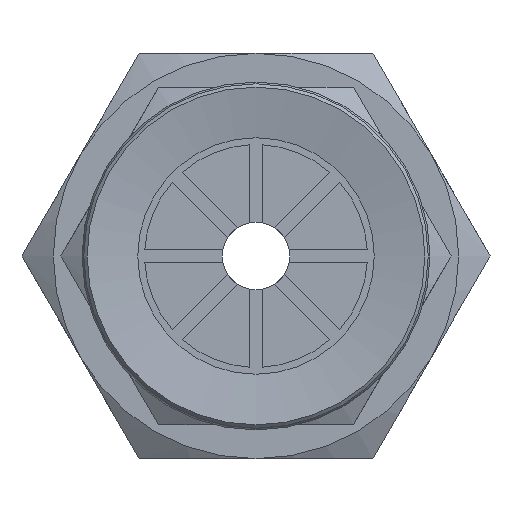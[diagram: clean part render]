
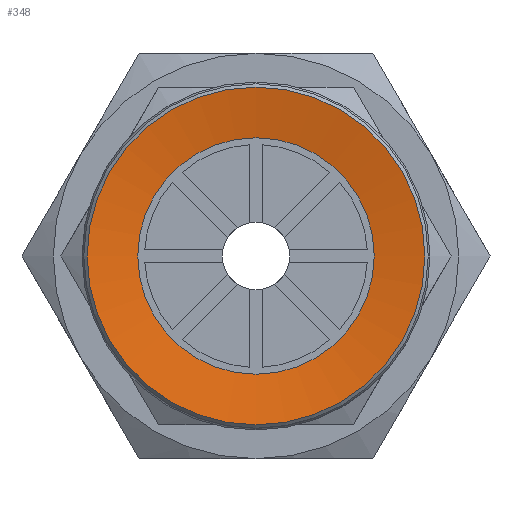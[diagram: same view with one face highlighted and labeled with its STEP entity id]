
A CAD part, front view. The second image highlights one B-rep face of the part: STEP entity #348.
In plain terms, the highlighted conical face has half-angle 80 degrees and reference radius 5 mm.
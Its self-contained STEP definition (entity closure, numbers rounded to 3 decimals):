
#348=ADVANCED_FACE('',(#568,#569),#570,.F.);
#568=FACE_BOUND('',#861,.T.);
#569=FACE_OUTER_BOUND('',#862,.T.);
#570=CONICAL_SURFACE('',#863,5.0,1.396);
#861=EDGE_LOOP('',(#1425));
#862=EDGE_LOOP('',(#1426));
#863=AXIS2_PLACEMENT_3D('',#1427,#1428,#1429);
#1425=ORIENTED_EDGE('',*,*,#1934,.T.);
#1426=ORIENTED_EDGE('',*,*,#1935,.F.);
#1427=CARTESIAN_POINT('',(0.0,0.,0.));
#1428=DIRECTION('',(0.0,0.,-1.0));
#1429=DIRECTION('',(0.0,1.0,0.));
#1934=EDGE_CURVE('',#2250,#2250,#2251,.T.);
#1935=EDGE_CURVE('',#2252,#2252,#2253,.T.);
#2250=VERTEX_POINT('',#3088);
#2251=CIRCLE('',#3089,3.5);
#2252=VERTEX_POINT('',#3090);
#2253=CIRCLE('',#3091,5.0);
#3088=CARTESIAN_POINT('',(0.0,-3.5,0.264));
#3089=AXIS2_PLACEMENT_3D('',#3526,#3527,#3528);
#3090=CARTESIAN_POINT('',(0.0,-5.0,0.));
#3091=AXIS2_PLACEMENT_3D('',#3529,#3530,#3531);
#3526=CARTESIAN_POINT('',(0.0,0.,0.264));
#3527=DIRECTION('',(0.0,0.,1.0));
#3528=DIRECTION('',(0.0,-1.0,0.));
#3529=CARTESIAN_POINT('',(0.0,0.,0.));
#3530=DIRECTION('',(0.0,0.,1.0));
#3531=DIRECTION('',(0.0,-1.0,0.));
